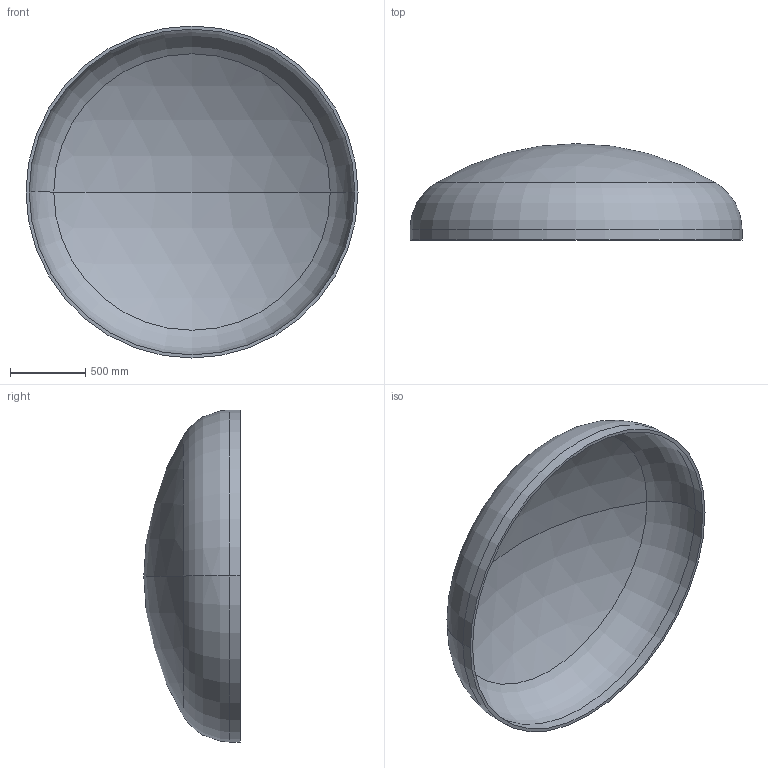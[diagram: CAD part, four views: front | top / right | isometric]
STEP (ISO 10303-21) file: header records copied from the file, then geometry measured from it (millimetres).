
FILE_DESCRIPTION (( 'STEP AP203' ), '1' );
FILE_NAME ('DIN 28013 Korbbogenform_-_Boden DIN 28013 - 2200 x 70 - I - s=21.step', '2016-07-01T14:24:54', ( '' ), ( '' ), 'SwSTEP 2.0', 'SolidWorks 2013', '' );
FILE_SCHEMA (( 'CONFIG_CONTROL_DESIGN' ));
Length unit declared in the file: millimetre
Products named in the file (1): DIN 28013 Korbbogenform_-_Boden DIN 28013 - 2200 x 70 - I - s=21
Bounding box: 2200 x 638.45 x 2200 mm (x, y, z)
Volume: 119312366.3 mm3; surface area: 11507758.1 mm2
Topology: 1 solids, 1 shells, 13 faces, 24 edges, 14 vertices
Faces by surface type: torus 4, cylinder 4, sphere 4, plane 1
Entity records: 407 total; most frequent: DIRECTION 72, CARTESIAN_POINT 52, ORIENTED_EDGE 48, AXIS2_PLACEMENT_3D 34, EDGE_CURVE 24, CIRCLE 20, VERTEX_POINT 14, EDGE_LOOP 14
